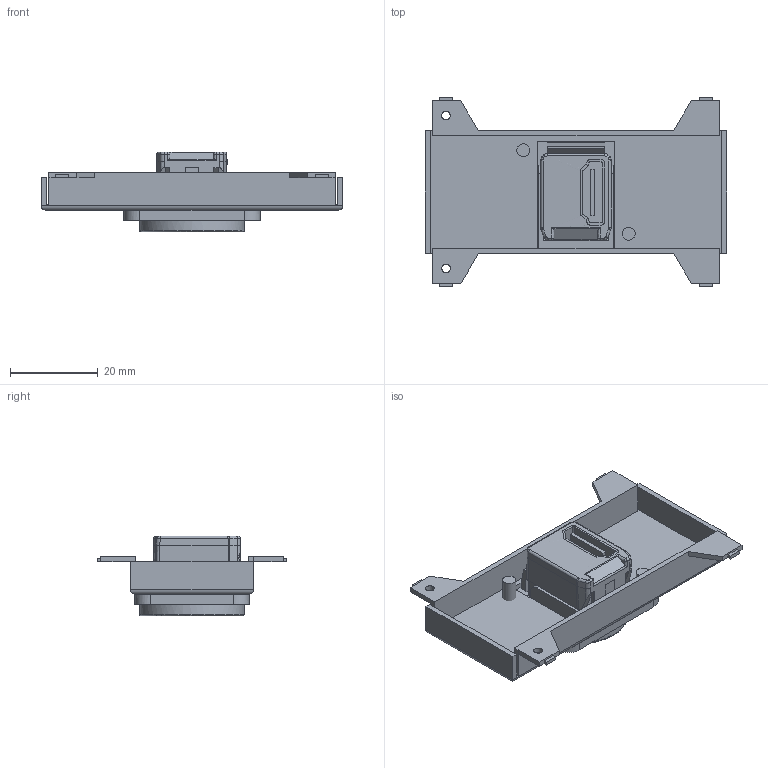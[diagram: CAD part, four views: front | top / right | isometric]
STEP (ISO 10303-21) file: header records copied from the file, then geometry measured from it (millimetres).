
FILE_DESCRIPTION(('FreeCAD Model'),'2;1');
FILE_NAME('Open CASCADE Shape Model','2026-09-15T13:22:08',(''),(''), 'Open CASCADE STEP processor 7.8','FreeCAD','Unknown');
FILE_SCHEMA(('AUTOMOTIVE_DESIGN { 1 0 10303 214 1 1 1 1 }'));
Length unit declared in the file: millimetre
Products named in the file (7): BTK_PNHDMI_BK; P-201801; PMNST_HDMI_BK; 3013BUSXLRBK; 210HD06G2xx; M3x8-Screw_1; M3x8-Screw_2
Assembly tree (6 placements, depth 3):
  BTK_PNHDMI_BK
    P-201801
    PMNST_HDMI_BK
      3013BUSXLRBK
      210HD06G2xx
    M3x8-Screw_1
    M3x8-Screw_2
Bounding box: 68.7 x 43.2 x 18.2 mm (x, y, z)
Volume: 9963.2 mm3; surface area: 12153.8 mm2
Topology: 5 solids, 5 shells, 347 faces, 955 edges, 624 vertices
Faces by surface type: bspline 235, plane 86, cylinder 12, cone 12, torus 2
Full cylindrical faces by diameter (mm): 2 x4, 3 x2, 5.3 x2
Entity records: 15616 total; most frequent: CARTESIAN_POINT 8619, ORIENTED_EDGE 1906, EDGE_CURVE 953, B_SPLINE_CURVE_WITH_KNOTS 644, DIRECTION 633, VERTEX_POINT 624, FACE_BOUND 371, EDGE_LOOP 371
